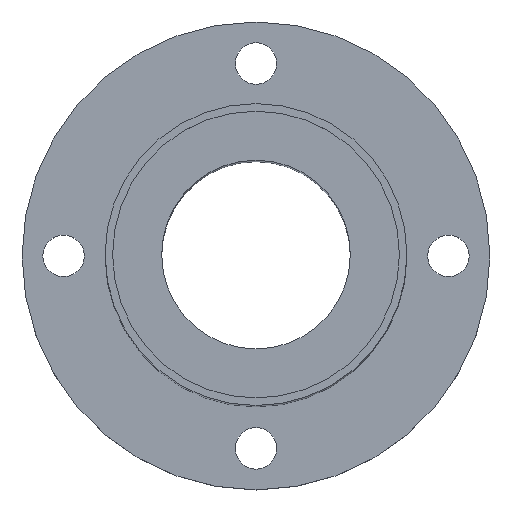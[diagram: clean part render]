
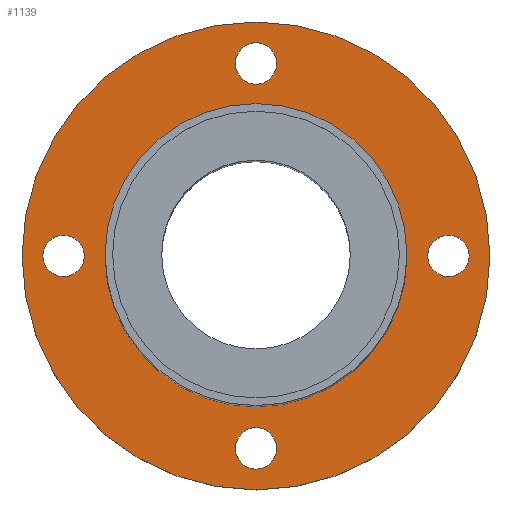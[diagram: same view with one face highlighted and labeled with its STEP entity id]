
A CAD part, top view. The second image highlights one B-rep face of the part: STEP entity #1139.
In plain terms, the highlighted planar face has unit normal (0, 0, 1).
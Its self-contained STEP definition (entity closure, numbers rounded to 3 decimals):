
#51=CARTESIAN_POINT('',(-31.0,-0.1,8.0));
#52=VERTEX_POINT('',#51);
#68=CARTESIAN_POINT('',(31.0,-0.1,8.0));
#69=VERTEX_POINT('',#68);
#76=CARTESIAN_POINT('',(0.0,-0.1,8.0));
#77=DIRECTION('',(0.0,0.0,-1.0));
#78=DIRECTION('',(-1.0,0.0,0.0));
#79=AXIS2_PLACEMENT_3D('',#76,#77,#78);
#80=CIRCLE('',#79,31.0);
#81=EDGE_CURVE('',#69,#52,#80,.T.);
#133=CARTESIAN_POINT('',(-20.0,-0.1,8.));
#134=VERTEX_POINT('',#133);
#143=CARTESIAN_POINT('',(20.0,-0.1,8.0));
#144=VERTEX_POINT('',#143);
#145=CARTESIAN_POINT('',(0.0,-0.1,8.0));
#146=DIRECTION('',(0.0,0.0,-1.0));
#147=DIRECTION('',(-1.0,0.0,0.0));
#148=AXIS2_PLACEMENT_3D('',#145,#146,#147);
#149=CIRCLE('',#148,20.0);
#150=EDGE_CURVE('',#144,#134,#149,.T.);
#345=CARTESIAN_POINT('',(0.0,22.65,8.0));
#346=VERTEX_POINT('',#345);
#362=CARTESIAN_POINT('',(0.,28.15,8.0));
#363=VERTEX_POINT('',#362);
#370=CARTESIAN_POINT('',(0.0,25.4,8.0));
#371=DIRECTION('',(0.0,0.0,-1.0));
#372=DIRECTION('',(0.0,-1.0,0.0));
#373=AXIS2_PLACEMENT_3D('',#370,#371,#372);
#374=CIRCLE('',#373,2.75);
#375=EDGE_CURVE('',#346,#363,#374,.T.);
#429=CARTESIAN_POINT('',(-22.75,-0.1,8.0));
#430=VERTEX_POINT('',#429);
#446=CARTESIAN_POINT('',(-28.25,-0.1,8.0));
#447=VERTEX_POINT('',#446);
#454=CARTESIAN_POINT('',(-25.5,-0.1,8.0));
#455=DIRECTION('',(0.0,0.0,-1.0));
#456=DIRECTION('',(1.0,0.0,0.0));
#457=AXIS2_PLACEMENT_3D('',#454,#455,#456);
#458=CIRCLE('',#457,2.75);
#459=EDGE_CURVE('',#430,#447,#458,.T.);
#513=CARTESIAN_POINT('',(0.,-22.85,8.0));
#514=VERTEX_POINT('',#513);
#530=CARTESIAN_POINT('',(0.,-28.35,8.0));
#531=VERTEX_POINT('',#530);
#538=CARTESIAN_POINT('',(0.,-25.6,8.0));
#539=DIRECTION('',(0.0,0.0,-1.0));
#540=DIRECTION('',(0.0,1.0,0.0));
#541=AXIS2_PLACEMENT_3D('',#538,#539,#540);
#542=CIRCLE('',#541,2.75);
#543=EDGE_CURVE('',#514,#531,#542,.T.);
#597=CARTESIAN_POINT('',(22.75,-0.1,8.0));
#598=VERTEX_POINT('',#597);
#614=CARTESIAN_POINT('',(28.25,-0.1,8.0));
#615=VERTEX_POINT('',#614);
#622=CARTESIAN_POINT('',(25.5,-0.1,8.0));
#623=DIRECTION('',(0.0,0.0,-1.0));
#624=DIRECTION('',(-1.0,0.0,0.0));
#625=AXIS2_PLACEMENT_3D('',#622,#623,#624);
#626=CIRCLE('',#625,2.75);
#627=EDGE_CURVE('',#598,#615,#626,.T.);
#638=CARTESIAN_POINT('',(25.5,-0.1,8.0));
#639=DIRECTION('',(0.0,0.0,-1.0));
#640=DIRECTION('',(-1.0,0.0,0.0));
#641=AXIS2_PLACEMENT_3D('',#638,#639,#640);
#642=CIRCLE('',#641,2.75);
#643=EDGE_CURVE('',#615,#598,#642,.T.);
#700=CARTESIAN_POINT('',(0.,-25.6,8.0));
#701=DIRECTION('',(0.0,0.0,-1.0));
#702=DIRECTION('',(0.0,1.0,0.0));
#703=AXIS2_PLACEMENT_3D('',#700,#701,#702);
#704=CIRCLE('',#703,2.75);
#705=EDGE_CURVE('',#531,#514,#704,.T.);
#762=CARTESIAN_POINT('',(-25.5,-0.1,8.0));
#763=DIRECTION('',(0.0,0.0,-1.0));
#764=DIRECTION('',(1.0,0.0,0.0));
#765=AXIS2_PLACEMENT_3D('',#762,#763,#764);
#766=CIRCLE('',#765,2.75);
#767=EDGE_CURVE('',#447,#430,#766,.T.);
#824=CARTESIAN_POINT('',(0.0,25.4,8.0));
#825=DIRECTION('',(0.0,0.0,-1.0));
#826=DIRECTION('',(0.0,-1.0,0.0));
#827=AXIS2_PLACEMENT_3D('',#824,#825,#826);
#828=CIRCLE('',#827,2.75);
#829=EDGE_CURVE('',#363,#346,#828,.T.);
#1056=CARTESIAN_POINT('',(0.0,-0.1,8.0));
#1057=DIRECTION('',(0.0,0.0,-1.0));
#1058=DIRECTION('',(-1.0,0.0,0.0));
#1059=AXIS2_PLACEMENT_3D('',#1056,#1057,#1058);
#1060=CIRCLE('',#1059,20.0);
#1061=EDGE_CURVE('',#134,#144,#1060,.T.);
#1098=CARTESIAN_POINT('',(0.0,-0.1,8.0));
#1099=DIRECTION('',(0.0,0.0,-1.0));
#1100=DIRECTION('',(-1.0,0.0,0.0));
#1101=AXIS2_PLACEMENT_3D('',#1098,#1099,#1100);
#1102=CIRCLE('',#1101,31.0);
#1103=EDGE_CURVE('',#52,#69,#1102,.T.);
#1110=CARTESIAN_POINT('',(0.0,-0.1,8.0));
#1111=DIRECTION('',(0.0,0.0,-1.0));
#1112=DIRECTION('',(-1.0,0.0,0.0));
#1113=AXIS2_PLACEMENT_3D('',#1110,#1111,#1112);
#1114=PLANE('',#1113);
#1115=ORIENTED_EDGE('',*,*,#81,.F.);
#1116=ORIENTED_EDGE('',*,*,#1103,.F.);
#1117=EDGE_LOOP('',(#1115,#1116));
#1118=FACE_OUTER_BOUND('',#1117,.T.);
#1119=ORIENTED_EDGE('',*,*,#627,.T.);
#1120=ORIENTED_EDGE('',*,*,#643,.T.);
#1121=EDGE_LOOP('',(#1119,#1120));
#1122=FACE_BOUND('',#1121,.T.);
#1123=ORIENTED_EDGE('',*,*,#543,.T.);
#1124=ORIENTED_EDGE('',*,*,#705,.T.);
#1125=EDGE_LOOP('',(#1123,#1124));
#1126=FACE_BOUND('',#1125,.T.);
#1127=ORIENTED_EDGE('',*,*,#459,.T.);
#1128=ORIENTED_EDGE('',*,*,#767,.T.);
#1129=EDGE_LOOP('',(#1127,#1128));
#1130=FACE_BOUND('',#1129,.T.);
#1131=ORIENTED_EDGE('',*,*,#375,.T.);
#1132=ORIENTED_EDGE('',*,*,#829,.T.);
#1133=EDGE_LOOP('',(#1131,#1132));
#1134=FACE_BOUND('',#1133,.T.);
#1135=ORIENTED_EDGE('',*,*,#150,.T.);
#1136=ORIENTED_EDGE('',*,*,#1061,.T.);
#1137=EDGE_LOOP('',(#1135,#1136));
#1138=FACE_BOUND('',#1137,.T.);
#1139=ADVANCED_FACE('',(#1118,#1122,#1126,#1130,#1134,#1138),#1114,.F.);
